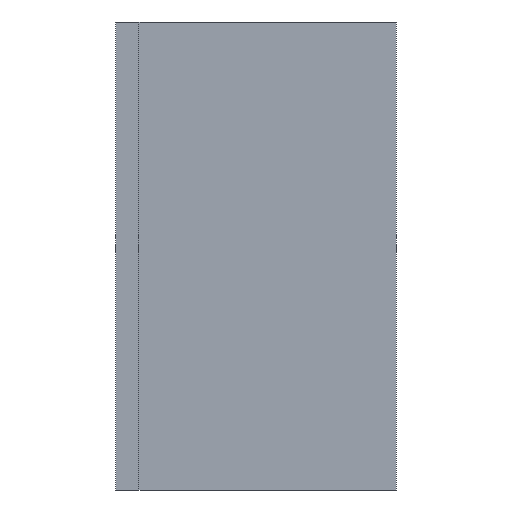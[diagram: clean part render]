
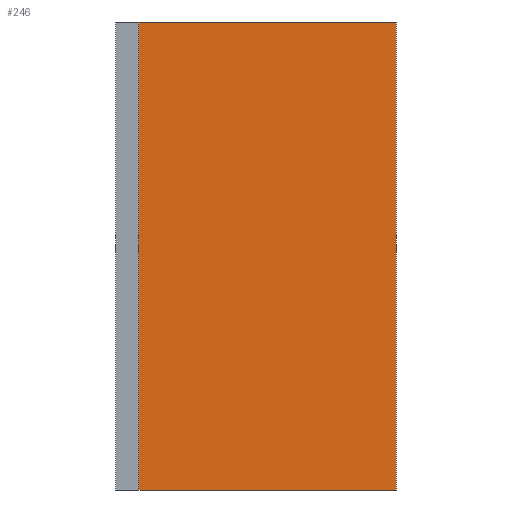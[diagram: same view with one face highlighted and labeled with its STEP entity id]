
A CAD part, left-side view. The second image highlights one B-rep face of the part: STEP entity #246.
In plain terms, the highlighted planar face has unit normal (-1, 0, 0).
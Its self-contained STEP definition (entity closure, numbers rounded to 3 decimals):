
#20=FACE_OUTER_BOUND('',#33,.T.);
#33=EDGE_LOOP('',(#182,#183,#184,#185));
#55=LINE('',#380,#88);
#57=LINE('',#384,#90);
#58=LINE('',#386,#91);
#59=LINE('',#387,#92);
#88=VECTOR('',#313,10.);
#90=VECTOR('',#317,10.);
#91=VECTOR('',#318,10.);
#92=VECTOR('',#319,10.);
#117=VERTEX_POINT('',#377);
#118=VERTEX_POINT('',#379);
#119=VERTEX_POINT('',#383);
#120=VERTEX_POINT('',#385);
#143=EDGE_CURVE('',#118,#117,#55,.T.);
#145=EDGE_CURVE('',#117,#119,#57,.T.);
#146=EDGE_CURVE('',#120,#119,#58,.T.);
#147=EDGE_CURVE('',#120,#118,#59,.T.);
#182=ORIENTED_EDGE('',*,*,#145,.T.);
#183=ORIENTED_EDGE('',*,*,#146,.F.);
#184=ORIENTED_EDGE('',*,*,#147,.T.);
#185=ORIENTED_EDGE('',*,*,#143,.T.);
#233=PLANE('',#279);
#246=ADVANCED_FACE('',(#20),#233,.T.);
#279=AXIS2_PLACEMENT_3D('',#382,#315,#316);
#313=DIRECTION('',(0.,0.,1.));
#315=DIRECTION('center_axis',(-1.,0.,0.));
#316=DIRECTION('ref_axis',(0.,0.,1.));
#317=DIRECTION('',(0.,1.,0.));
#318=DIRECTION('',(0.,0.,1.));
#319=DIRECTION('',(0.,-1.,0.));
#377=CARTESIAN_POINT('',(-3.088,0.,100.));
#379=CARTESIAN_POINT('',(-3.088,0.,0.));
#380=CARTESIAN_POINT('',(-3.088,0.,0.));
#382=CARTESIAN_POINT('Origin',(-3.088,0.,0.));
#383=CARTESIAN_POINT('',(-3.088,55.,100.));
#384=CARTESIAN_POINT('',(-3.088,55.,100.));
#385=CARTESIAN_POINT('',(-3.088,55.,0.));
#386=CARTESIAN_POINT('',(-3.088,55.,0.));
#387=CARTESIAN_POINT('',(-3.088,55.,0.));
